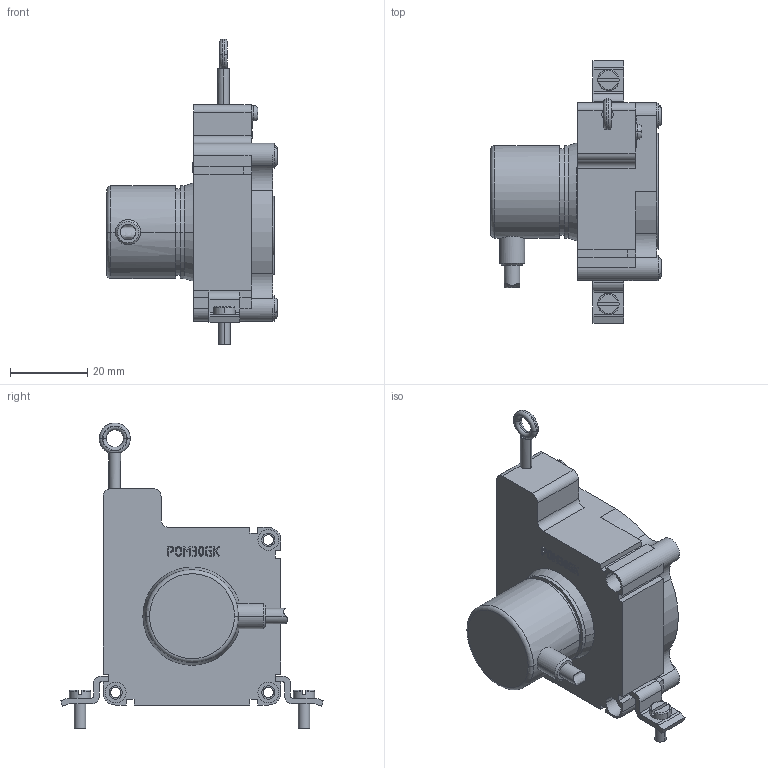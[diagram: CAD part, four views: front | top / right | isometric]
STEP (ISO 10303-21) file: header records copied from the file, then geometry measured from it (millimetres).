
FILE_DESCRIPTION((''),'2;1');
FILE_NAME('','2007-03-15T',(''),(''),'PRO/ENGINEER BY PARAMETRIC TECHNOLOGY CORPORATION, 2003250','PRO/ENGINEER BY PARAMETRIC TECHNOLOGY CORPORATION, 2003250','');
FILE_SCHEMA(('CONFIG_CONTROL_DESIGN'));
Length unit declared in the file: millimetre
Bounding box: 44.1 x 68 x 79.2 mm (x, y, z)
Volume: 27108.2 mm3; surface area: 21517.6 mm2
Topology: 1 solids, 10 shells, 808 faces, 2192 edges, 1458 vertices
Faces by surface type: plane 368, cylinder 247, extrusion 155, torus 26, cone 10, bspline 2
Entity records: 27411 total; most frequent: CARTESIAN_POINT 6992, ORIENTED_EDGE 4372, DIRECTION 3972, EDGE_CURVE 2186, VERTEX_POINT 1458, AXIS2_PLACEMENT_3D 1328, VECTOR 1316, LINE 1161
